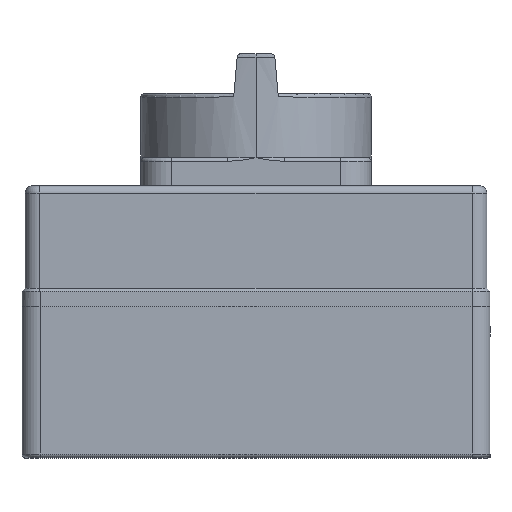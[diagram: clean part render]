
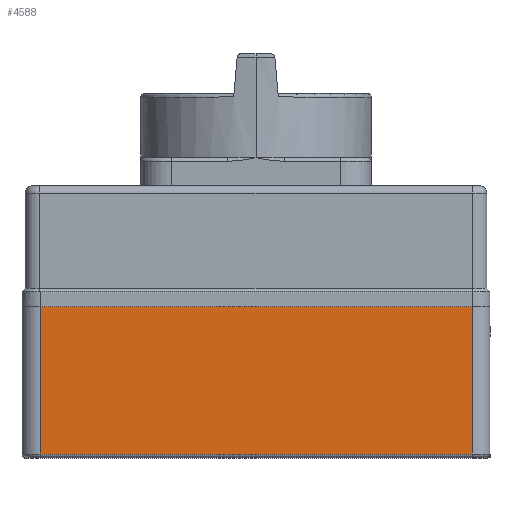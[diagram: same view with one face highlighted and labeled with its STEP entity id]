
A CAD part, top view. The second image highlights one B-rep face of the part: STEP entity #4588.
In plain terms, the highlighted planar face has unit normal (0, 0, 1).
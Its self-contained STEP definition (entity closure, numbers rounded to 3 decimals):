
#568 = ORIENTED_EDGE ( 'NONE', *, *, #4543, .T. ) ;
#867 = VERTEX_POINT ( 'NONE', #4911 ) ;
#1277 = EDGE_LOOP ( 'NONE', ( #4305, #568, #4139, #4237 ) ) ;
#1278 = CARTESIAN_POINT ( 'NONE',  ( -60., 41.9, 49. ) ) ;
#2097 = AXIS2_PLACEMENT_3D ( 'NONE', #5134, #5000, #4953 ) ;
#2913 = CARTESIAN_POINT ( 'NONE',  ( -60., 1., 49. ) ) ;
#3808 = VERTEX_POINT ( 'NONE', #1278 ) ;
#4139 = ORIENTED_EDGE ( 'NONE', *, *, #4258, .T. ) ;
#4206 = VERTEX_POINT ( 'NONE', #6842 ) ;
#4237 = ORIENTED_EDGE ( 'NONE', *, *, #4697, .F. ) ;
#4258 = EDGE_CURVE ( 'NONE', #867, #4206, #5407, .T. ) ;
#4266 = EDGE_CURVE ( 'NONE', #3808, #4909, #5480, .T. ) ;
#4305 = ORIENTED_EDGE ( 'NONE', *, *, #4266, .T. ) ;
#4392 = DIRECTION ( 'NONE',  ( 1., 0., 0. ) ) ;
#4394 = CARTESIAN_POINT ( 'NONE',  ( -65., 41.9, 49. ) ) ;
#4543 = EDGE_CURVE ( 'NONE', #4909, #867, #6899, .T. ) ;
#4588 = ADVANCED_FACE ( 'NONE', ( #6695 ), #4969, .F. ) ;
#4697 = EDGE_CURVE ( 'NONE', #3808, #4206, #6336, .T. ) ;
#4909 = VERTEX_POINT ( 'NONE', #2913 ) ;
#4911 = CARTESIAN_POINT ( 'NONE',  ( 60., 1., 49. ) ) ;
#4953 = DIRECTION ( 'NONE',  ( -1., 0., 0. ) ) ;
#4969 = PLANE ( 'NONE',  #2097 ) ;
#5000 = DIRECTION ( 'NONE',  ( 0., 0., -1. ) ) ;
#5134 = CARTESIAN_POINT ( 'NONE',  ( -65., 41.9, 49. ) ) ;
#5174 = CARTESIAN_POINT ( 'NONE',  ( 60., 1., 49. ) ) ;
#5196 = DIRECTION ( 'NONE',  ( 1., 0., 0. ) ) ;
#5236 = VECTOR ( 'NONE', #6609, 1000. ) ;
#5312 = VECTOR ( 'NONE', #6571, 1000. ) ;
#5407 = LINE ( 'NONE', #6671, #5236 ) ;
#5480 = LINE ( 'NONE', #6516, #5312 ) ;
#6252 = VECTOR ( 'NONE', #4392, 1000. ) ;
#6336 = LINE ( 'NONE', #4394, #6252 ) ;
#6516 = CARTESIAN_POINT ( 'NONE',  ( -60., 41.9, 49. ) ) ;
#6571 = DIRECTION ( 'NONE',  ( 0., -1., 0. ) ) ;
#6609 = DIRECTION ( 'NONE',  ( 0., 1., 0. ) ) ;
#6671 = CARTESIAN_POINT ( 'NONE',  ( 60., 41.9, 49. ) ) ;
#6695 = FACE_OUTER_BOUND ( 'NONE', #1277, .T. ) ;
#6813 = VECTOR ( 'NONE', #5196, 1000. ) ;
#6842 = CARTESIAN_POINT ( 'NONE',  ( 60., 41.9, 49. ) ) ;
#6899 = LINE ( 'NONE', #5174, #6813 ) ;
